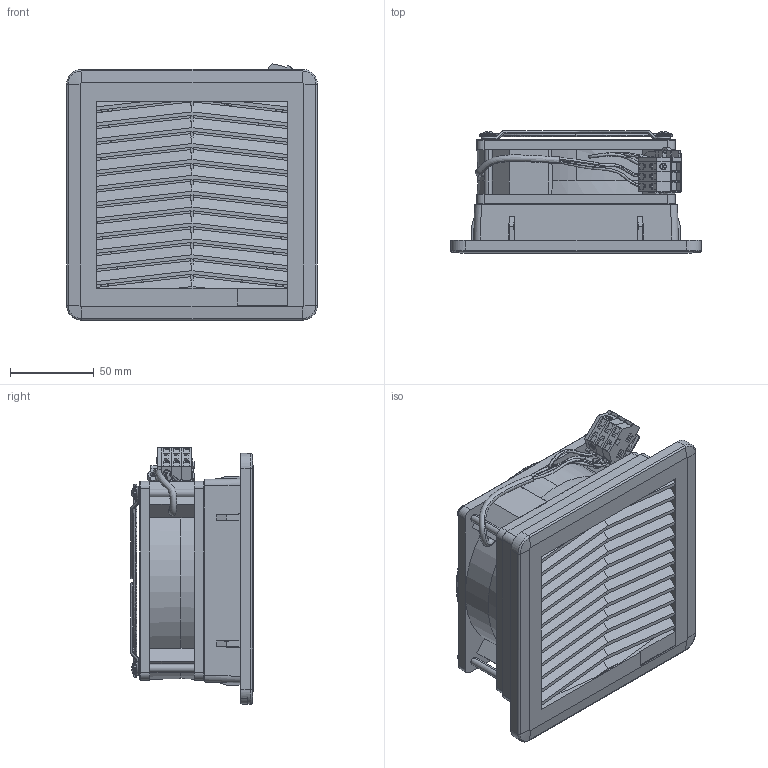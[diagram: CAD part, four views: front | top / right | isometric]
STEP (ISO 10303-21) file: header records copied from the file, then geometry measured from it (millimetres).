
FILE_DESCRIPTION (( 'STEP AP214' ), '1' );
FILE_NAME ('HN0516513.STEP', '2023-07-26T21:34:23', ( '' ), ( '' ), 'SwSTEP 2.0', 'SolidWorks 2020', '' );
FILE_SCHEMA (( 'AUTOMOTIVE_DESIGN' ));
Length unit declared in the file: millimetre
Products named in the file (1): HN0516513
Bounding box: 150 x 73.2 x 153.35 mm (x, y, z)
Surface area: 128063.5 mm2 (no closed solid volume)
Topology: 0 solids, 21 shells, 1225 faces, 3409 edges, 2241 vertices
Faces by surface type: plane 851, cylinder 194, bspline 85, cone 62, torus 25, sphere 8
Entity records: 64849 total; most frequent: CARTESIAN_POINT 34160, ORIENTED_EDGE 6720, DIRECTION 5712, EDGE_CURVE 3409, VECTOR 2368, LINE 2368, VERTEX_POINT 2241, AXIS2_PLACEMENT_3D 1672
